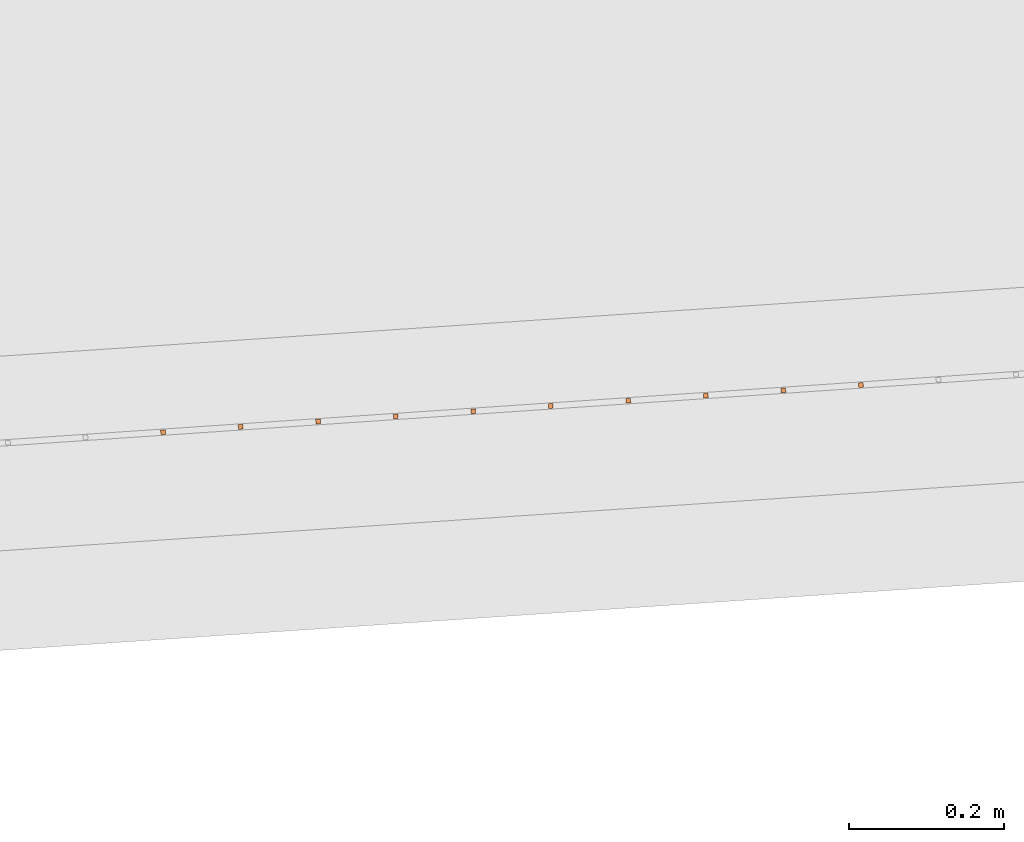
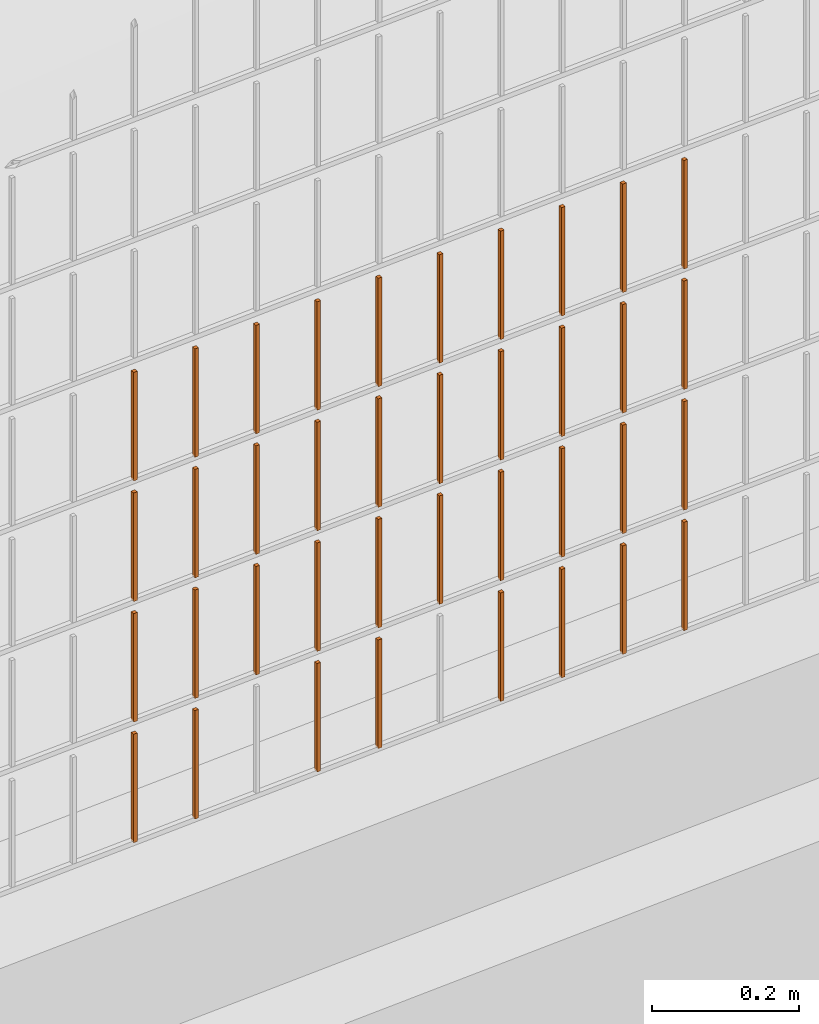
# One storey, part 184 of 1809: 38 proxies, 1 element without a shape of its own.
"""IFC2X3 building model written with IfcOpenShell, lengths in millimetres."""

from ifc_helpers import new_model, entity, si_unit, converted_unit, derived_unit, money_unit, direction, frame, origin_with_axes, place, context, subcontext, project, spatial, faceted_brep, source, transform, mapped, material, type_object, element, aggregate, save


model = new_model("IFC2X3")

# Units and contexts
model_context = context("Model", 3, precision=0.01, world=origin_with_axes(), true_north=direction((0.0, 1.0)))
body_context = subcontext(model_context, "Body", "Model", "MODEL_VIEW")
ifc_project = project(units=[si_unit("LENGTHUNIT", "METRE", prefix="MILLI"), si_unit("AREAUNIT", "SQUARE_METRE"), si_unit("VOLUMEUNIT", "CUBIC_METRE"), converted_unit("PLANEANGLEUNIT", "DEGREE", entity("IfcPlaneAngleMeasure", 0.0174532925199), si_unit("PLANEANGLEUNIT", "RADIAN"), dimensions=[0, 0, 0, 0, 0, 0, 0]), si_unit("SOLIDANGLEUNIT", "STERADIAN"), money_unit("EUR"), converted_unit("TIMEUNIT", "Year", entity("IfcTimeMeasure", 31556926.0), si_unit("TIMEUNIT", "SECOND"), dimensions=[0, 0, 1, 0, 0, 0, 0]), si_unit("MASSUNIT", "GRAM", prefix="KILO"), si_unit("THERMODYNAMICTEMPERATUREUNIT", "DEGREE_CELSIUS"), si_unit("LUMINOUSINTENSITYUNIT", "LUMEN"), si_unit("ENERGYUNIT", "JOULE", prefix="MEGA"), derived_unit("THERMALCONDUCTANCEUNIT", [(si_unit("POWERUNIT", "WATT"), 1), (si_unit("LENGTHUNIT", "METRE"), -1), (si_unit("THERMODYNAMICTEMPERATUREUNIT", "KELVIN"), -1)]), derived_unit("SPECIFICHEATCAPACITYUNIT", [(si_unit("ENERGYUNIT", "JOULE"), 1), (si_unit("MASSUNIT", "GRAM", prefix="KILO"), -1), (si_unit("THERMODYNAMICTEMPERATUREUNIT", "KELVIN"), -1)]), derived_unit("MASSDENSITYUNIT", [(si_unit("MASSUNIT", "GRAM", prefix="KILO"), 1), (si_unit("VOLUMEUNIT", "CUBIC_METRE"), -1)])], contexts=[model_context])

# Site, building, storey
site_placement = place(None, origin_with_axes())
site = spatial("IfcSite", under=ifc_project, at=site_placement, Name="Politse- ja Piirivalveameti ning Päästeameti ühishoone", CompositionType="ELEMENT")
building_placement = place(site_placement, origin_with_axes())
building = spatial("IfcBuilding", under=site, at=building_placement, Name="Politse- ja Piirivalveameti ning Päästeameti ühishoone", CompositionType="ELEMENT")
storey_placement = place(building_placement, origin_with_axes())
storey = spatial("IfcBuildingStorey", under=building, at=storey_placement, Name="Esimene korrus", CompositionType="ELEMENT", Elevation=0.0)

# Proxies
building_element_proxy_type_1 = type_object("IfcBuildingElementProxyType", Name="Railing Type", PredefinedType="NOTDEFINED")
proxy_1_placement = place(storey_placement, frame((89252.001212, -29183.4766571, 203.661247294), z_axis=(0.0, 0.0, 1.0), x_axis=(1.0, 0.0, 0.0)))
proxy_1 = element("IfcBuildingElementProxy", 1, at=proxy_1_placement, inside=storey, type_object=building_element_proxy_type_1, Name="PIIRDEAED")
ifc_material = material(Name="ET-03_Raud")
building_element_proxy_type_2 = type_object("IfcBuildingElementProxyType", Name="IfcBuildingElementProxy", PredefinedType="NOTDEFINED")
shared_shape_1 = source(origin_with_axes(), body_context, "Body", "Brep", [
    faceted_brep([(3.0, 3.0, -0.000752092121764), (-3.0, 3.0, -0.000752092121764), (-3.0, 3.0, 179.99926046), (3.0, 3.0, 179.99926046), (3.0, -3.0, 0.000752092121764), (-3.0, -3.0, 0.000752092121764), (-3.0, -3.0, 180.000764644), (3.0, -3.0, 180.000764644)], [[[0, 1, 2, 3]], [[0, 4, 5, 1]], [[1, 5, 6, 2]], [[3, 2, 6, 7]], [[4, 0, 3, 7]], [[5, 4, 7, 6]]]),
])
proxy_2_placement = place(proxy_1_placement, frame((-70765.4382887, -22077.7130589, 9.4532510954), z_axis=(0.0, 0.0, 1.0), x_axis=(1.0, 0.0, 0.0)))
proxy_2 = element("IfcBuildingElementProxy", 2, at=proxy_2_placement, type_object=building_element_proxy_type_2, material=ifc_material, Name="BALUSTER - 001", context=body_context, shape_type="MappedRepresentation", body=[
    mapped(shared_shape_1, transform((0.0, 0.0, 0.0), x_axis=(-0.0673926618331, 0.997726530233, 0.0), y_axis=(-0.997726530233, -0.0673926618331, 0.0), z_axis=(0.0, 0.0, 1.0))),
])
shared_shape_2 = source(origin_with_axes(), body_context, "Body", "Brep", [
    faceted_brep([(3.0, 3.0, -0.000752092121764), (-3.0, 3.0, -0.000752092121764), (-3.0, 3.0, 179.99926046), (3.0, 3.0, 179.99926046), (3.0, -3.0, 0.000752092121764), (-3.0, -3.0, 0.000752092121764), (-3.0, -3.0, 180.000764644), (3.0, -3.0, 180.000764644)], [[[0, 1, 2, 3]], [[0, 4, 5, 1]], [[1, 5, 6, 2]], [[3, 2, 6, 7]], [[4, 0, 3, 7]], [[5, 4, 7, 6]]]),
])
proxy_3_placement = place(proxy_1_placement, frame((-70266.5750236, -22044.016728, 9.57859978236), z_axis=(0.0, 0.0, 1.0), x_axis=(1.0, 0.0, 0.0)))
proxy_3 = element("IfcBuildingElementProxy", 3, at=proxy_3_placement, type_object=building_element_proxy_type_2, material=ifc_material, Name="BALUSTER - 001", context=body_context, shape_type="MappedRepresentation", body=[
    mapped(shared_shape_2, transform((0.0, 0.0, 0.0), x_axis=(-0.0673926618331, 0.997726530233, 0.0), y_axis=(-0.997726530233, -0.0673926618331, 0.0), z_axis=(0.0, 0.0, 1.0))),
])
proxy_4_placement = place(proxy_1_placement, frame((-70266.5750236, -22044.016728, 209.578599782), z_axis=(0.0, 0.0, 1.0), x_axis=(1.0, 0.0, 0.0)))
proxy_4 = element("IfcBuildingElementProxy", 4, at=proxy_4_placement, type_object=building_element_proxy_type_2, material=ifc_material, Name="BALUSTER - 001", context=body_context, shape_type="MappedRepresentation", body=[
    mapped(shared_shape_2, transform((0.0, 0.0, 0.0), x_axis=(-0.0673926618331, 0.997726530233, 0.0), y_axis=(-0.997726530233, -0.0673926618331, 0.0), z_axis=(0.0, 0.0, 1.0))),
])
shared_shape_3 = source(origin_with_axes(), body_context, "Body", "Brep", [
    faceted_brep([(3.0, 3.0, -0.000752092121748), (-3.0, 3.0, -0.00075209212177), (-3.0, 3.0, 179.99926046), (3.0, 3.0, 179.99926046), (3.0, -3.0, 0.00075209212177), (-3.0, -3.0, 0.000752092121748), (-3.0, -3.0, 180.000764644), (3.0, -3.0, 180.000764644)], [[[0, 1, 2, 3]], [[0, 4, 5, 1]], [[1, 5, 6, 2]], [[3, 2, 6, 7]], [[4, 0, 3, 7]], [[5, 4, 7, 6]]]),
])
proxy_5_placement = place(proxy_1_placement, frame((-70366.3476766, -22050.7559941, 9.55353004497), z_axis=(0.0, 0.0, 1.0), x_axis=(1.0, 0.0, 0.0)))
proxy_5 = element("IfcBuildingElementProxy", 5, at=proxy_5_placement, type_object=building_element_proxy_type_2, material=ifc_material, Name="BALUSTER - 001", context=body_context, shape_type="MappedRepresentation", body=[
    mapped(shared_shape_3, transform((0.0, 0.0, 0.0), x_axis=(-0.0673926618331, 0.997726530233, 0.0), y_axis=(-0.997726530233, -0.0673926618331, 0.0), z_axis=(0.0, 0.0, 1.0))),
])
shared_shape_4 = source(origin_with_axes(), body_context, "Body", "Brep", [
    faceted_brep([(3.0, 3.0, -0.000752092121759), (-3.0, 3.0, -0.000752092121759), (-3.0, 3.0, 179.99926046), (3.0, 3.0, 179.99926046), (3.0, -3.0, 0.000752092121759), (-3.0, -3.0, 0.000752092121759), (-3.0, -3.0, 180.000764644), (3.0, -3.0, 180.000764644)], [[[0, 1, 2, 3]], [[0, 4, 5, 1]], [[1, 5, 6, 2]], [[3, 2, 6, 7]], [[4, 0, 3, 7]], [[5, 4, 7, 6]]]),
])
proxy_6_placement = place(proxy_1_placement, frame((-70865.2109417, -22084.4523251, 9.428181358), z_axis=(0.0, 0.0, 1.0), x_axis=(1.0, 0.0, 0.0)))
proxy_6 = element("IfcBuildingElementProxy", 6, at=proxy_6_placement, type_object=building_element_proxy_type_2, material=ifc_material, Name="BALUSTER - 001", context=body_context, shape_type="MappedRepresentation", body=[
    mapped(shared_shape_4, transform((0.0, 0.0, 0.0), x_axis=(-0.0673926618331, 0.997726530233, 0.0), y_axis=(-0.997726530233, -0.0673926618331, 0.0), z_axis=(0.0, 0.0, 1.0))),
])
proxy_7_placement = place(proxy_1_placement, frame((-70865.2109417, -22084.4523251, 209.428181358), z_axis=(0.0, 0.0, 1.0), x_axis=(1.0, 0.0, 0.0)))
proxy_7 = element("IfcBuildingElementProxy", 7, at=proxy_7_placement, type_object=building_element_proxy_type_2, material=ifc_material, Name="BALUSTER - 001", context=body_context, shape_type="MappedRepresentation", body=[
    mapped(shared_shape_4, transform((0.0, 0.0, 0.0), x_axis=(-0.0673926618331, 0.997726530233, 0.0), y_axis=(-0.997726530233, -0.0673926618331, 0.0), z_axis=(0.0, 0.0, 1.0))),
])
shared_shape_5 = source(origin_with_axes(), body_context, "Body", "Brep", [
    faceted_brep([(3.0, 3.0, -0.000752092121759), (-3.0, 3.0, -0.000752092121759), (-3.0, 3.0, 179.99926046), (3.0, 3.0, 179.99926046), (3.0, -3.0, 0.000752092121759), (-3.0, -3.0, 0.000752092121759), (-3.0, -3.0, 180.000764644), (3.0, -3.0, 180.000764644)], [[[0, 1, 2, 3]], [[0, 4, 5, 1]], [[1, 5, 6, 2]], [[3, 2, 6, 7]], [[4, 0, 3, 7]], [[5, 4, 7, 6]]]),
])
proxy_8_placement = place(proxy_1_placement, frame((-71164.5289008, -22104.6701236, 9.35297214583), z_axis=(0.0, 0.0, 1.0), x_axis=(1.0, 0.0, 0.0)))
proxy_8 = element("IfcBuildingElementProxy", 8, at=proxy_8_placement, type_object=building_element_proxy_type_2, material=ifc_material, Name="BALUSTER - 001", context=body_context, shape_type="MappedRepresentation", body=[
    mapped(shared_shape_5, transform((0.0, 0.0, 0.0), x_axis=(-0.0673926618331, 0.997726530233, 0.0), y_axis=(-0.997726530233, -0.0673926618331, 0.0), z_axis=(0.0, 0.0, 1.0))),
])
shared_shape_6 = source(origin_with_axes(), body_context, "Body", "Brep", [
    faceted_brep([(3.0, 3.0, -0.000752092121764), (-3.0, 3.0, -0.000752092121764), (-3.0, 3.0, 179.99926046), (3.0, 3.0, 179.99926046), (3.0, -3.0, 0.000752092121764), (-3.0, -3.0, 0.000752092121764), (-3.0, -3.0, 180.000764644), (3.0, -3.0, 180.000764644)], [[[0, 1, 2, 3]], [[0, 4, 5, 1]], [[1, 5, 6, 2]], [[3, 2, 6, 7]], [[4, 0, 3, 7]], [[5, 4, 7, 6]]]),
])
proxy_9_placement = place(proxy_1_placement, frame((-70765.4382887, -22077.7130589, 209.453251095), z_axis=(0.0, 0.0, 1.0), x_axis=(1.0, 0.0, 0.0)))
proxy_9 = element("IfcBuildingElementProxy", 9, at=proxy_9_placement, type_object=building_element_proxy_type_2, material=ifc_material, Name="BALUSTER - 001", context=body_context, shape_type="MappedRepresentation", body=[
    mapped(shared_shape_6, transform((0.0, 0.0, 0.0), x_axis=(-0.0673926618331, 0.997726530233, 0.0), y_axis=(-0.997726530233, -0.0673926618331, 0.0), z_axis=(0.0, 0.0, 1.0))),
])
shared_shape_7 = source(origin_with_axes(), body_context, "Body", "Brep", [
    faceted_brep([(3.0, 3.0, -0.000752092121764), (-3.0, 3.0, -0.000752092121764), (-3.0, 3.0, 179.99926046), (3.0, 3.0, 179.99926046), (3.0, -3.0, 0.000752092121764), (-3.0, -3.0, 0.000752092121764), (-3.0, -3.0, 180.000764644), (3.0, -3.0, 180.000764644)], [[[0, 1, 2, 3]], [[0, 4, 5, 1]], [[1, 5, 6, 2]], [[3, 2, 6, 7]], [[4, 0, 3, 7]], [[5, 4, 7, 6]]]),
])
proxy_10_placement = place(proxy_1_placement, frame((-70266.5750236, -22044.016728, 409.578599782), z_axis=(0.0, 0.0, 1.0), x_axis=(1.0, 0.0, 0.0)))
proxy_10 = element("IfcBuildingElementProxy", 10, at=proxy_10_placement, type_object=building_element_proxy_type_2, material=ifc_material, Name="BALUSTER - 001", context=body_context, shape_type="MappedRepresentation", body=[
    mapped(shared_shape_7, transform((0.0, 0.0, 0.0), x_axis=(-0.0673926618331, 0.997726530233, 0.0), y_axis=(-0.997726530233, -0.0673926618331, 0.0), z_axis=(0.0, 0.0, 1.0))),
])
proxy_11_placement = place(proxy_1_placement, frame((-70765.4382887, -22077.7130589, 409.453251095), z_axis=(0.0, 0.0, 1.0), x_axis=(1.0, 0.0, 0.0)))
proxy_11 = element("IfcBuildingElementProxy", 11, at=proxy_11_placement, type_object=building_element_proxy_type_2, material=ifc_material, Name="BALUSTER - 001", context=body_context, shape_type="MappedRepresentation", body=[
    mapped(shared_shape_7, transform((0.0, 0.0, 0.0), x_axis=(-0.0673926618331, 0.997726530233, 0.0), y_axis=(-0.997726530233, -0.0673926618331, 0.0), z_axis=(0.0, 0.0, 1.0))),
])
proxy_12_placement = place(proxy_1_placement, frame((-70765.4382887, -22077.7130589, 609.453251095), z_axis=(0.0, 0.0, 1.0), x_axis=(1.0, 0.0, 0.0)))
proxy_12 = element("IfcBuildingElementProxy", 12, at=proxy_12_placement, type_object=building_element_proxy_type_2, material=ifc_material, Name="BALUSTER - 001", context=body_context, shape_type="MappedRepresentation", body=[
    mapped(shared_shape_7, transform((0.0, 0.0, 0.0), x_axis=(-0.0673926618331, 0.997726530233, 0.0), y_axis=(-0.997726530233, -0.0673926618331, 0.0), z_axis=(0.0, 0.0, 1.0))),
])
shared_shape_8 = source(origin_with_axes(), body_context, "Body", "Brep", [
    faceted_brep([(3.0, 3.0, -0.000752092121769), (-3.0, 3.0, -0.000752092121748), (-3.0, 3.0, 179.99926046), (3.0, 3.0, 179.99926046), (3.0, -3.0, 0.000752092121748), (-3.0, -3.0, 0.000752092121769), (-3.0, -3.0, 180.000764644), (3.0, -3.0, 180.000764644)], [[[0, 1, 2, 3]], [[0, 4, 5, 1]], [[1, 5, 6, 2]], [[3, 2, 6, 7]], [[4, 0, 3, 7]], [[5, 4, 7, 6]]]),
])
proxy_13_placement = place(proxy_1_placement, frame((-70665.6656357, -22070.9737927, 609.478320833), z_axis=(0.0, 0.0, 1.0), x_axis=(1.0, 0.0, 0.0)))
proxy_13 = element("IfcBuildingElementProxy", 13, at=proxy_13_placement, type_object=building_element_proxy_type_2, material=ifc_material, Name="BALUSTER - 001", context=body_context, shape_type="MappedRepresentation", body=[
    mapped(shared_shape_8, transform((0.0, 0.0, 0.0), x_axis=(-0.0673926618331, 0.997726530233, 0.0), y_axis=(-0.997726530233, -0.0673926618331, 0.0), z_axis=(0.0, 0.0, 1.0))),
])
shared_shape_9 = source(origin_with_axes(), body_context, "Body", "Brep", [
    faceted_brep([(3.0, 3.0, -0.000752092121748), (-3.0, 3.0, -0.00075209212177), (-3.0, 3.0, 179.99926046), (3.0, 3.0, 179.99926046), (3.0, -3.0, 0.00075209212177), (-3.0, -3.0, 0.000752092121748), (-3.0, -3.0, 180.000764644), (3.0, -3.0, 180.000764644)], [[[0, 1, 2, 3]], [[0, 4, 5, 1]], [[1, 5, 6, 2]], [[3, 2, 6, 7]], [[4, 0, 3, 7]], [[5, 4, 7, 6]]]),
])
proxy_14_placement = place(proxy_1_placement, frame((-70565.8929827, -22064.2345265, 209.50339057), z_axis=(0.0, 0.0, 1.0), x_axis=(1.0, 0.0, 0.0)))
proxy_14 = element("IfcBuildingElementProxy", 14, at=proxy_14_placement, type_object=building_element_proxy_type_2, material=ifc_material, Name="BALUSTER - 001", context=body_context, shape_type="MappedRepresentation", body=[
    mapped(shared_shape_9, transform((0.0, 0.0, 0.0), x_axis=(-0.0673926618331, 0.997726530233, 0.0), y_axis=(-0.997726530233, -0.0673926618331, 0.0), z_axis=(0.0, 0.0, 1.0))),
])
proxy_15_placement = place(proxy_1_placement, frame((-70366.3476766, -22050.7559941, 409.553530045), z_axis=(0.0, 0.0, 1.0), x_axis=(1.0, 0.0, 0.0)))
proxy_15 = element("IfcBuildingElementProxy", 15, at=proxy_15_placement, type_object=building_element_proxy_type_2, material=ifc_material, Name="BALUSTER - 001", context=body_context, shape_type="MappedRepresentation", body=[
    mapped(shared_shape_9, transform((0.0, 0.0, 0.0), x_axis=(-0.0673926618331, 0.997726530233, 0.0), y_axis=(-0.997726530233, -0.0673926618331, 0.0), z_axis=(0.0, 0.0, 1.0))),
])
proxy_16_placement = place(proxy_1_placement, frame((-70565.8929827, -22064.2345265, 609.50339057), z_axis=(0.0, 0.0, 1.0), x_axis=(1.0, 0.0, 0.0)))
proxy_16 = element("IfcBuildingElementProxy", 16, at=proxy_16_placement, type_object=building_element_proxy_type_2, material=ifc_material, Name="BALUSTER - 001", context=body_context, shape_type="MappedRepresentation", body=[
    mapped(shared_shape_9, transform((0.0, 0.0, 0.0), x_axis=(-0.0673926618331, 0.997726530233, 0.0), y_axis=(-0.997726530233, -0.0673926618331, 0.0), z_axis=(0.0, 0.0, 1.0))),
])
shared_shape_10 = source(origin_with_axes(), body_context, "Body", "Brep", [
    faceted_brep([(3.0, 3.0, -0.000752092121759), (-3.0, 3.0, -0.000752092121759), (-3.0, 3.0, 179.99926046), (3.0, 3.0, 179.99926046), (3.0, -3.0, 0.000752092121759), (-3.0, -3.0, 0.000752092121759), (-3.0, -3.0, 180.000764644), (3.0, -3.0, 180.000764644)], [[[0, 1, 2, 3]], [[0, 4, 5, 1]], [[1, 5, 6, 2]], [[3, 2, 6, 7]], [[4, 0, 3, 7]], [[5, 4, 7, 6]]]),
])
proxy_17_placement = place(proxy_1_placement, frame((-71164.5289008, -22104.6701236, 209.352972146), z_axis=(0.0, 0.0, 1.0), x_axis=(1.0, 0.0, 0.0)))
proxy_17 = element("IfcBuildingElementProxy", 17, at=proxy_17_placement, type_object=building_element_proxy_type_2, material=ifc_material, Name="BALUSTER - 001", context=body_context, shape_type="MappedRepresentation", body=[
    mapped(shared_shape_10, transform((0.0, 0.0, 0.0), x_axis=(-0.0673926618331, 0.997726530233, 0.0), y_axis=(-0.997726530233, -0.0673926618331, 0.0), z_axis=(0.0, 0.0, 1.0))),
])
proxy_18_placement = place(proxy_1_placement, frame((-71064.7562478, -22097.9308574, 409.378041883), z_axis=(0.0, 0.0, 1.0), x_axis=(1.0, 0.0, 0.0)))
proxy_18 = element("IfcBuildingElementProxy", 18, at=proxy_18_placement, type_object=building_element_proxy_type_2, material=ifc_material, Name="BALUSTER - 001", context=body_context, shape_type="MappedRepresentation", body=[
    mapped(shared_shape_10, transform((0.0, 0.0, 0.0), x_axis=(-0.0673926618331, 0.997726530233, 0.0), y_axis=(-0.997726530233, -0.0673926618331, 0.0), z_axis=(0.0, 0.0, 1.0))),
])
proxy_19_placement = place(proxy_1_placement, frame((-71164.5289008, -22104.6701236, 409.352972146), z_axis=(0.0, 0.0, 1.0), x_axis=(1.0, 0.0, 0.0)))
proxy_19 = element("IfcBuildingElementProxy", 19, at=proxy_19_placement, type_object=building_element_proxy_type_2, material=ifc_material, Name="BALUSTER - 001", context=body_context, shape_type="MappedRepresentation", body=[
    mapped(shared_shape_10, transform((0.0, 0.0, 0.0), x_axis=(-0.0673926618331, 0.997726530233, 0.0), y_axis=(-0.997726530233, -0.0673926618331, 0.0), z_axis=(0.0, 0.0, 1.0))),
])
proxy_20_placement = place(proxy_1_placement, frame((-71064.7562478, -22097.9308574, 609.378041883), z_axis=(0.0, 0.0, 1.0), x_axis=(1.0, 0.0, 0.0)))
proxy_20 = element("IfcBuildingElementProxy", 20, at=proxy_20_placement, type_object=building_element_proxy_type_2, material=ifc_material, Name="BALUSTER - 001", context=body_context, shape_type="MappedRepresentation", body=[
    mapped(shared_shape_10, transform((0.0, 0.0, 0.0), x_axis=(-0.0673926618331, 0.997726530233, 0.0), y_axis=(-0.997726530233, -0.0673926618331, 0.0), z_axis=(0.0, 0.0, 1.0))),
])
proxy_21_placement = place(proxy_1_placement, frame((-71164.5289008, -22104.6701236, 609.352972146), z_axis=(0.0, 0.0, 1.0), x_axis=(1.0, 0.0, 0.0)))
proxy_21 = element("IfcBuildingElementProxy", 21, at=proxy_21_placement, type_object=building_element_proxy_type_2, material=ifc_material, Name="BALUSTER - 001", context=body_context, shape_type="MappedRepresentation", body=[
    mapped(shared_shape_10, transform((0.0, 0.0, 0.0), x_axis=(-0.0673926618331, 0.997726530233, 0.0), y_axis=(-0.997726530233, -0.0673926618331, 0.0), z_axis=(0.0, 0.0, 1.0))),
])
shared_shape_11 = source(origin_with_axes(), body_context, "Body", "Brep", [
    faceted_brep([(3.0, 3.0, -0.000752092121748), (-3.0, 3.0, -0.00075209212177), (-3.0, 3.0, 179.99926046), (3.0, 3.0, 179.99926046), (3.0, -3.0, 0.00075209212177), (-3.0, -3.0, 0.000752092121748), (-3.0, -3.0, 180.000764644), (3.0, -3.0, 180.000764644)], [[[0, 1, 2, 3]], [[0, 4, 5, 1]], [[1, 5, 6, 2]], [[3, 2, 6, 7]], [[4, 0, 3, 7]], [[5, 4, 7, 6]]]),
])
proxy_22_placement = place(proxy_1_placement, frame((-70366.3476766, -22050.7559941, 209.553530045), z_axis=(0.0, 0.0, 1.0), x_axis=(1.0, 0.0, 0.0)))
proxy_22 = element("IfcBuildingElementProxy", 22, at=proxy_22_placement, type_object=building_element_proxy_type_2, material=ifc_material, Name="BALUSTER - 001", context=body_context, shape_type="MappedRepresentation", body=[
    mapped(shared_shape_11, transform((0.0, 0.0, 0.0), x_axis=(-0.0673926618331, 0.997726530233, 0.0), y_axis=(-0.997726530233, -0.0673926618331, 0.0), z_axis=(0.0, 0.0, 1.0))),
])
proxy_23_placement = place(proxy_1_placement, frame((-70565.8929827, -22064.2345265, 409.50339057), z_axis=(0.0, 0.0, 1.0), x_axis=(1.0, 0.0, 0.0)))
proxy_23 = element("IfcBuildingElementProxy", 23, at=proxy_23_placement, type_object=building_element_proxy_type_2, material=ifc_material, Name="BALUSTER - 001", context=body_context, shape_type="MappedRepresentation", body=[
    mapped(shared_shape_11, transform((0.0, 0.0, 0.0), x_axis=(-0.0673926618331, 0.997726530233, 0.0), y_axis=(-0.997726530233, -0.0673926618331, 0.0), z_axis=(0.0, 0.0, 1.0))),
])
shared_shape_12 = source(origin_with_axes(), body_context, "Body", "Brep", [
    faceted_brep([(3.0, 3.0, -0.000752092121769), (-3.0, 3.0, -0.000752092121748), (-3.0, 3.0, 179.99926046), (3.0, 3.0, 179.99926046), (3.0, -3.0, 0.000752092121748), (-3.0, -3.0, 0.000752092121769), (-3.0, -3.0, 180.000764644), (3.0, -3.0, 180.000764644)], [[[0, 1, 2, 3]], [[0, 4, 5, 1]], [[1, 5, 6, 2]], [[3, 2, 6, 7]], [[4, 0, 3, 7]], [[5, 4, 7, 6]]]),
])
proxy_24_placement = place(proxy_1_placement, frame((-70665.6656357, -22070.9737927, 209.478320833), z_axis=(0.0, 0.0, 1.0), x_axis=(1.0, 0.0, 0.0)))
proxy_24 = element("IfcBuildingElementProxy", 24, at=proxy_24_placement, type_object=building_element_proxy_type_2, material=ifc_material, Name="BALUSTER - 001", context=body_context, shape_type="MappedRepresentation", body=[
    mapped(shared_shape_12, transform((0.0, 0.0, 0.0), x_axis=(-0.0673926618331, 0.997726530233, 0.0), y_axis=(-0.997726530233, -0.0673926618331, 0.0), z_axis=(0.0, 0.0, 1.0))),
])
proxy_25_placement = place(proxy_1_placement, frame((-70665.6656357, -22070.9737927, 409.478320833), z_axis=(0.0, 0.0, 1.0), x_axis=(1.0, 0.0, 0.0)))
proxy_25 = element("IfcBuildingElementProxy", 25, at=proxy_25_placement, type_object=building_element_proxy_type_2, material=ifc_material, Name="BALUSTER - 001", context=body_context, shape_type="MappedRepresentation", body=[
    mapped(shared_shape_12, transform((0.0, 0.0, 0.0), x_axis=(-0.0673926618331, 0.997726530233, 0.0), y_axis=(-0.997726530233, -0.0673926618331, 0.0), z_axis=(0.0, 0.0, 1.0))),
])
shared_shape_13 = source(origin_with_axes(), body_context, "Body", "Brep", [
    faceted_brep([(3.0, 3.0, -0.000752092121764), (-3.0, 3.0, -0.000752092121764), (-3.0, 3.0, 179.99926046), (3.0, 3.0, 179.99926046), (3.0, -3.0, 0.000752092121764), (-3.0, -3.0, 0.000752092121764), (-3.0, -3.0, 180.000764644), (3.0, -3.0, 180.000764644)], [[[0, 1, 2, 3]], [[0, 4, 5, 1]], [[1, 5, 6, 2]], [[3, 2, 6, 7]], [[4, 0, 3, 7]], [[5, 4, 7, 6]]]),
])
proxy_26_placement = place(proxy_1_placement, frame((-70266.5750236, -22044.016728, 609.578599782), z_axis=(0.0, 0.0, 1.0), x_axis=(1.0, 0.0, 0.0)))
proxy_26 = element("IfcBuildingElementProxy", 26, at=proxy_26_placement, type_object=building_element_proxy_type_2, material=ifc_material, Name="BALUSTER - 001", context=body_context, shape_type="MappedRepresentation", body=[
    mapped(shared_shape_13, transform((0.0, 0.0, 0.0), x_axis=(-0.0673926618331, 0.997726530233, 0.0), y_axis=(-0.997726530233, -0.0673926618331, 0.0), z_axis=(0.0, 0.0, 1.0))),
])
shared_shape_14 = source(origin_with_axes(), body_context, "Body", "Brep", [
    faceted_brep([(3.0, 3.0, -0.000752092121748), (-3.0, 3.0, -0.00075209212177), (-3.0, 3.0, 179.99926046), (3.0, 3.0, 179.99926046), (3.0, -3.0, 0.00075209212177), (-3.0, -3.0, 0.000752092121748), (-3.0, -3.0, 180.000764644), (3.0, -3.0, 180.000764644)], [[[0, 1, 2, 3]], [[0, 4, 5, 1]], [[1, 5, 6, 2]], [[3, 2, 6, 7]], [[4, 0, 3, 7]], [[5, 4, 7, 6]]]),
])
proxy_27_placement = place(proxy_1_placement, frame((-70366.3476766, -22050.7559941, 609.553530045), z_axis=(0.0, 0.0, 1.0), x_axis=(1.0, 0.0, 0.0)))
proxy_27 = element("IfcBuildingElementProxy", 27, at=proxy_27_placement, type_object=building_element_proxy_type_2, material=ifc_material, Name="BALUSTER - 001", context=body_context, shape_type="MappedRepresentation", body=[
    mapped(shared_shape_14, transform((0.0, 0.0, 0.0), x_axis=(-0.0673926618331, 0.997726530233, 0.0), y_axis=(-0.997726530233, -0.0673926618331, 0.0), z_axis=(0.0, 0.0, 1.0))),
])
shared_shape_15 = source(origin_with_axes(), body_context, "Body", "Brep", [
    faceted_brep([(3.0, 3.0, -0.000752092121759), (-3.0, 3.0, -0.000752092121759), (-3.0, 3.0, 179.99926046), (3.0, 3.0, 179.99926046), (3.0, -3.0, 0.000752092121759), (-3.0, -3.0, 0.000752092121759), (-3.0, -3.0, 180.000764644), (3.0, -3.0, 180.000764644)], [[[0, 1, 2, 3]], [[0, 4, 5, 1]], [[1, 5, 6, 2]], [[3, 2, 6, 7]], [[4, 0, 3, 7]], [[5, 4, 7, 6]]]),
])
proxy_28_placement = place(proxy_1_placement, frame((-70865.2109417, -22084.4523251, 609.428181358), z_axis=(0.0, 0.0, 1.0), x_axis=(1.0, 0.0, 0.0)))
proxy_28 = element("IfcBuildingElementProxy", 28, at=proxy_28_placement, type_object=building_element_proxy_type_2, material=ifc_material, Name="BALUSTER - 001", context=body_context, shape_type="MappedRepresentation", body=[
    mapped(shared_shape_15, transform((0.0, 0.0, 0.0), x_axis=(-0.0673926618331, 0.997726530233, 0.0), y_axis=(-0.997726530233, -0.0673926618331, 0.0), z_axis=(0.0, 0.0, 1.0))),
])
shared_shape_16 = source(origin_with_axes(), body_context, "Body", "Brep", [
    faceted_brep([(3.0, 3.0, -0.000752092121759), (-3.0, 3.0, -0.000752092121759), (-3.0, 3.0, 179.99926046), (3.0, 3.0, 179.99926046), (3.0, -3.0, 0.000752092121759), (-3.0, -3.0, 0.000752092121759), (-3.0, -3.0, 180.000764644), (3.0, -3.0, 180.000764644)], [[[0, 1, 2, 3]], [[0, 4, 5, 1]], [[1, 5, 6, 2]], [[3, 2, 6, 7]], [[4, 0, 3, 7]], [[5, 4, 7, 6]]]),
])
proxy_29_placement = place(proxy_1_placement, frame((-71064.7562478, -22097.9308574, 9.37804188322), z_axis=(0.0, 0.0, 1.0), x_axis=(1.0, 0.0, 0.0)))
proxy_29 = element("IfcBuildingElementProxy", 29, at=proxy_29_placement, type_object=building_element_proxy_type_2, material=ifc_material, Name="BALUSTER - 001", context=body_context, shape_type="MappedRepresentation", body=[
    mapped(shared_shape_16, transform((0.0, 0.0, 0.0), x_axis=(-0.0673926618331, 0.997726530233, 0.0), y_axis=(-0.997726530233, -0.0673926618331, 0.0), z_axis=(0.0, 0.0, 1.0))),
])
shared_shape_17 = source(origin_with_axes(), body_context, "Body", "Brep", [
    faceted_brep([(3.0, 3.0, -0.000752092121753), (-3.0, 3.0, -0.000752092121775), (-3.0, 3.0, 179.99926046), (3.0, 3.0, 179.99926046), (3.0, -3.0, 0.000752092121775), (-3.0, -3.0, 0.000752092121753), (-3.0, -3.0, 180.000764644), (3.0, -3.0, 180.000764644)], [[[0, 1, 2, 3]], [[0, 4, 5, 1]], [[1, 5, 6, 2]], [[3, 2, 6, 7]], [[4, 0, 3, 7]], [[5, 4, 7, 6]]]),
])
proxy_30_placement = place(proxy_1_placement, frame((-70466.1203296, -22057.4952603, 209.528460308), z_axis=(0.0, 0.0, 1.0), x_axis=(1.0, 0.0, 0.0)))
proxy_30 = element("IfcBuildingElementProxy", 30, at=proxy_30_placement, type_object=building_element_proxy_type_2, material=ifc_material, Name="BALUSTER - 001", context=body_context, shape_type="MappedRepresentation", body=[
    mapped(shared_shape_17, transform((0.0, 0.0, 0.0), x_axis=(-0.0673926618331, 0.997726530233, 0.0), y_axis=(-0.997726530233, -0.0673926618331, 0.0), z_axis=(0.0, 0.0, 1.0))),
])
proxy_31_placement = place(proxy_1_placement, frame((-70466.1203296, -22057.4952603, 409.528460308), z_axis=(0.0, 0.0, 1.0), x_axis=(1.0, 0.0, 0.0)))
proxy_31 = element("IfcBuildingElementProxy", 31, at=proxy_31_placement, type_object=building_element_proxy_type_2, material=ifc_material, Name="BALUSTER - 001", context=body_context, shape_type="MappedRepresentation", body=[
    mapped(shared_shape_17, transform((0.0, 0.0, 0.0), x_axis=(-0.0673926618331, 0.997726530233, 0.0), y_axis=(-0.997726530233, -0.0673926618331, 0.0), z_axis=(0.0, 0.0, 1.0))),
])
proxy_32_placement = place(proxy_1_placement, frame((-70466.1203296, -22057.4952603, 609.528460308), z_axis=(0.0, 0.0, 1.0), x_axis=(1.0, 0.0, 0.0)))
proxy_32 = element("IfcBuildingElementProxy", 32, at=proxy_32_placement, type_object=building_element_proxy_type_2, material=ifc_material, Name="BALUSTER - 001", context=body_context, shape_type="MappedRepresentation", body=[
    mapped(shared_shape_17, transform((0.0, 0.0, 0.0), x_axis=(-0.0673926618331, 0.997726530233, 0.0), y_axis=(-0.997726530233, -0.0673926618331, 0.0), z_axis=(0.0, 0.0, 1.0))),
])
shared_shape_18 = source(origin_with_axes(), body_context, "Body", "Brep", [
    faceted_brep([(3.0, 3.0, -0.000752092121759), (-3.0, 3.0, -0.000752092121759), (-3.0, 3.0, 179.99926046), (3.0, 3.0, 179.99926046), (3.0, -3.0, 0.000752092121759), (-3.0, -3.0, 0.000752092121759), (-3.0, -3.0, 180.000764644), (3.0, -3.0, 180.000764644)], [[[0, 1, 2, 3]], [[0, 4, 5, 1]], [[1, 5, 6, 2]], [[3, 2, 6, 7]], [[4, 0, 3, 7]], [[5, 4, 7, 6]]]),
])
proxy_33_placement = place(proxy_1_placement, frame((-70865.2109417, -22084.4523251, 409.428181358), z_axis=(0.0, 0.0, 1.0), x_axis=(1.0, 0.0, 0.0)))
proxy_33 = element("IfcBuildingElementProxy", 33, at=proxy_33_placement, type_object=building_element_proxy_type_2, material=ifc_material, Name="BALUSTER - 001", context=body_context, shape_type="MappedRepresentation", body=[
    mapped(shared_shape_18, transform((0.0, 0.0, 0.0), x_axis=(-0.0673926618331, 0.997726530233, 0.0), y_axis=(-0.997726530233, -0.0673926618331, 0.0), z_axis=(0.0, 0.0, 1.0))),
])
shared_shape_19 = source(origin_with_axes(), body_context, "Body", "Brep", [
    faceted_brep([(3.0, 3.0, -0.000752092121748), (-3.0, 3.0, -0.00075209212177), (-3.0, 3.0, 179.99926046), (3.0, 3.0, 179.99926046), (3.0, -3.0, 0.00075209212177), (-3.0, -3.0, 0.000752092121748), (-3.0, -3.0, 180.000764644), (3.0, -3.0, 180.000764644)], [[[0, 1, 2, 3]], [[0, 4, 5, 1]], [[1, 5, 6, 2]], [[3, 2, 6, 7]], [[4, 0, 3, 7]], [[5, 4, 7, 6]]]),
])
proxy_34_placement = place(proxy_1_placement, frame((-70565.8929827, -22064.2345265, 9.50339057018), z_axis=(0.0, 0.0, 1.0), x_axis=(1.0, 0.0, 0.0)))
proxy_34 = element("IfcBuildingElementProxy", 34, at=proxy_34_placement, type_object=building_element_proxy_type_2, material=ifc_material, Name="BALUSTER - 001", context=body_context, shape_type="MappedRepresentation", body=[
    mapped(shared_shape_19, transform((0.0, 0.0, 0.0), x_axis=(-0.0673926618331, 0.997726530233, 0.0), y_axis=(-0.997726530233, -0.0673926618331, 0.0), z_axis=(0.0, 0.0, 1.0))),
])
shared_shape_20 = source(origin_with_axes(), body_context, "Body", "Brep", [
    faceted_brep([(3.0, 3.0, -0.000752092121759), (-3.0, 3.0, -0.000752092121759), (-3.0, 3.0, 179.99926046), (3.0, 3.0, 179.99926046), (3.0, -3.0, 0.000752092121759), (-3.0, -3.0, 0.000752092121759), (-3.0, -3.0, 180.000764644), (3.0, -3.0, 180.000764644)], [[[0, 1, 2, 3]], [[0, 4, 5, 1]], [[1, 5, 6, 2]], [[3, 2, 6, 7]], [[4, 0, 3, 7]], [[5, 4, 7, 6]]]),
])
proxy_35_placement = place(proxy_1_placement, frame((-71064.7562478, -22097.9308574, 209.378041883), z_axis=(0.0, 0.0, 1.0), x_axis=(1.0, 0.0, 0.0)))
proxy_35 = element("IfcBuildingElementProxy", 35, at=proxy_35_placement, type_object=building_element_proxy_type_2, material=ifc_material, Name="BALUSTER - 001", context=body_context, shape_type="MappedRepresentation", body=[
    mapped(shared_shape_20, transform((0.0, 0.0, 0.0), x_axis=(-0.0673926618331, 0.997726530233, 0.0), y_axis=(-0.997726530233, -0.0673926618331, 0.0), z_axis=(0.0, 0.0, 1.0))),
])
shared_shape_21 = source(origin_with_axes(), body_context, "Body", "Brep", [
    faceted_brep([(3.0, 3.0, -0.000752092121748), (-3.0, 3.0, -0.00075209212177), (-3.0, 3.0, 179.99926046), (3.0, 3.0, 179.99926046), (3.0, -3.0, 0.00075209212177), (-3.0, -3.0, 0.000752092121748), (-3.0, -3.0, 180.000764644), (3.0, -3.0, 180.000764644)], [[[0, 1, 2, 3]], [[0, 4, 5, 1]], [[1, 5, 6, 2]], [[3, 2, 6, 7]], [[4, 0, 3, 7]], [[5, 4, 7, 6]]]),
])
proxy_36_placement = place(proxy_1_placement, frame((-70964.9835948, -22091.1915912, 209.403111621), z_axis=(0.0, 0.0, 1.0), x_axis=(1.0, 0.0, 0.0)))
proxy_36 = element("IfcBuildingElementProxy", 36, at=proxy_36_placement, type_object=building_element_proxy_type_2, material=ifc_material, Name="BALUSTER - 001", context=body_context, shape_type="MappedRepresentation", body=[
    mapped(shared_shape_21, transform((0.0, 0.0, 0.0), x_axis=(-0.0673926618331, 0.997726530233, 0.0), y_axis=(-0.997726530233, -0.0673926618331, 0.0), z_axis=(0.0, 0.0, 1.0))),
])
proxy_37_placement = place(proxy_1_placement, frame((-70964.9835948, -22091.1915912, 409.403111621), z_axis=(0.0, 0.0, 1.0), x_axis=(1.0, 0.0, 0.0)))
proxy_37 = element("IfcBuildingElementProxy", 37, at=proxy_37_placement, type_object=building_element_proxy_type_2, material=ifc_material, Name="BALUSTER - 001", context=body_context, shape_type="MappedRepresentation", body=[
    mapped(shared_shape_21, transform((0.0, 0.0, 0.0), x_axis=(-0.0673926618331, 0.997726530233, 0.0), y_axis=(-0.997726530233, -0.0673926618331, 0.0), z_axis=(0.0, 0.0, 1.0))),
])
shared_shape_22 = source(origin_with_axes(), body_context, "Body", "Brep", [
    faceted_brep([(3.0, 3.0, -0.000752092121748), (-3.0, 3.0, -0.00075209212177), (-3.0, 3.0, 179.99926046), (3.0, 3.0, 179.99926046), (3.0, -3.0, 0.00075209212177), (-3.0, -3.0, 0.000752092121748), (-3.0, -3.0, 180.000764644), (3.0, -3.0, 180.000764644)], [[[0, 1, 2, 3]], [[0, 4, 5, 1]], [[1, 5, 6, 2]], [[3, 2, 6, 7]], [[4, 0, 3, 7]], [[5, 4, 7, 6]]]),
])
proxy_38_placement = place(proxy_1_placement, frame((-70964.9835948, -22091.1915912, 609.403111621), z_axis=(0.0, 0.0, 1.0), x_axis=(1.0, 0.0, 0.0)))
proxy_38 = element("IfcBuildingElementProxy", 38, at=proxy_38_placement, type_object=building_element_proxy_type_2, material=ifc_material, Name="BALUSTER - 001", context=body_context, shape_type="MappedRepresentation", body=[
    mapped(shared_shape_22, transform((0.0, 0.0, 0.0), x_axis=(-0.0673926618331, 0.997726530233, 0.0), y_axis=(-0.997726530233, -0.0673926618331, 0.0), z_axis=(0.0, 0.0, 1.0))),
])
shared_shape_23 = source(origin_with_axes(), body_context, "Body", "Brep", [
    faceted_brep([(3.0, 3.0, -0.000752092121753), (-3.0, 3.0, -0.000752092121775), (-3.0, 3.0, 179.99926046), (3.0, 3.0, 179.99926046), (3.0, -3.0, 0.000752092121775), (-3.0, -3.0, 0.000752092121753), (-3.0, -3.0, 180.000764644), (3.0, -3.0, 180.000764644)], [[[0, 1, 2, 3]], [[0, 4, 5, 1]], [[1, 5, 6, 2]], [[3, 2, 6, 7]], [[4, 0, 3, 7]], [[5, 4, 7, 6]]]),
])
proxy_39_placement = place(proxy_1_placement, frame((-70466.1203296, -22057.4952603, 9.52846030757), z_axis=(0.0, 0.0, 1.0), x_axis=(1.0, 0.0, 0.0)))
proxy_39 = element("IfcBuildingElementProxy", 39, at=proxy_39_placement, type_object=building_element_proxy_type_2, material=ifc_material, Name="BALUSTER - 001", context=body_context, shape_type="MappedRepresentation", body=[
    mapped(shared_shape_23, transform((0.0, 0.0, 0.0), x_axis=(-0.0673926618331, 0.997726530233, 0.0), y_axis=(-0.997726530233, -0.0673926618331, 0.0), z_axis=(0.0, 0.0, 1.0))),
])
aggregate(proxy_1, [proxy_3, proxy_5, proxy_39, proxy_34, proxy_2, proxy_6, proxy_29, proxy_8, proxy_4, proxy_22, proxy_30, proxy_14, proxy_24, proxy_9, proxy_7, proxy_36, proxy_35, proxy_17, proxy_10, proxy_15, proxy_31, proxy_23, proxy_25, proxy_11, proxy_33, proxy_37, proxy_18, proxy_19, proxy_26, proxy_27, proxy_32, proxy_16, proxy_13, proxy_12, proxy_28, proxy_38, proxy_20, proxy_21])

save(model, "model.ifc")
